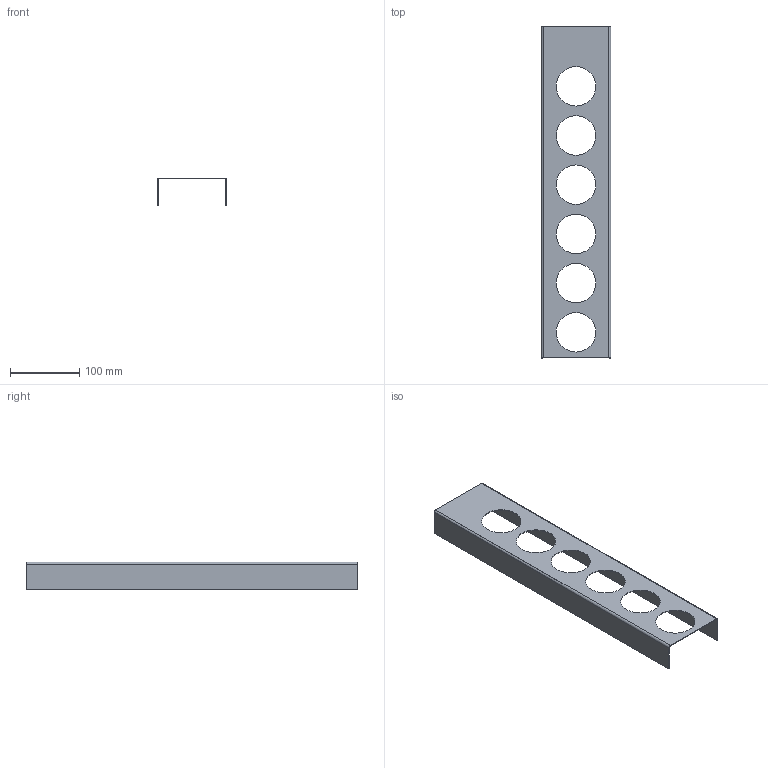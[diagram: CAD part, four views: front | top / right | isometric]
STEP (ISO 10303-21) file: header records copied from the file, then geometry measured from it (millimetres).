
FILE_DESCRIPTION (( 'STEP AP214' ), '1' );
FILE_NAME ('Gewuerzeinsatz_68321-01.STEP', '2010-10-25T13:47:34', ( 'grass' ), ( '' ), 'SwSTEP 2.0', 'SolidWorks 2010', '' );
FILE_SCHEMA (( 'AUTOMOTIVE_DESIGN' ));
Length unit declared in the file: millimetre
Products named in the file (1): Gewuerzeinsatz_68321-01
Bounding box: 100 x 479 x 40 mm (x, y, z)
Volume: 68923.5 mm3; surface area: 140231.1 mm2
Topology: 1 solids, 1 shells, 26 faces, 72 edges, 48 vertices
Faces by surface type: cylinder 16, plane 10
Entity records: 906 total; most frequent: DIRECTION 158, CARTESIAN_POINT 147, ORIENTED_EDGE 144, EDGE_CURVE 72, AXIS2_PLACEMENT_3D 59, VERTEX_POINT 48, VECTOR 40, LINE 40
